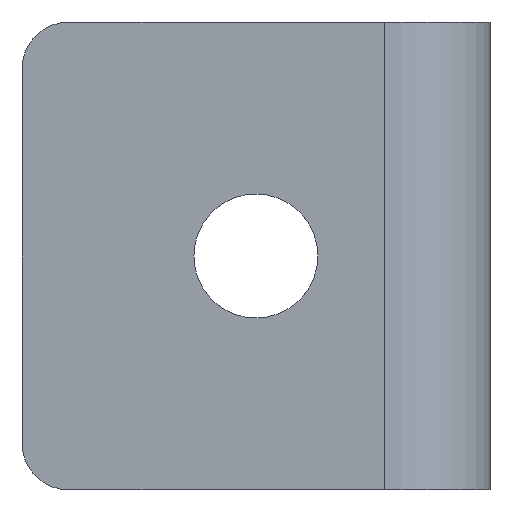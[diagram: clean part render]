
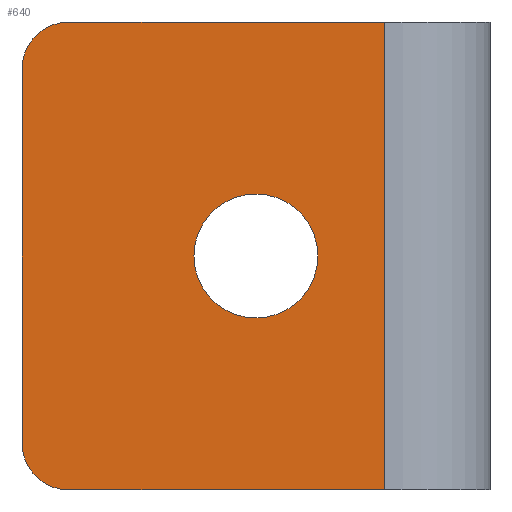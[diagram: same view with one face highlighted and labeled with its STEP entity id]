
A CAD part, left-side view. The second image highlights one B-rep face of the part: STEP entity #640.
In plain terms, the highlighted planar face has unit normal (-1, 0, 0).
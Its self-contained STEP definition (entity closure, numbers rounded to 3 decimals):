
#37 = ORIENTED_EDGE ( 'NONE', *, *, #208, .T. ) ;
#51 = ORIENTED_EDGE ( 'NONE', *, *, #454, .T. ) ;
#68 = CARTESIAN_POINT ( 'NONE',  ( -2.91, 1.5, -10. ) ) ;
#80 = DIRECTION ( 'NONE',  ( 0., 0., -1. ) ) ;
#90 = VECTOR ( 'NONE', #590, 1000. ) ;
#94 = CARTESIAN_POINT ( 'NONE',  ( -2.91, 7.01, 0. ) ) ;
#98 = DIRECTION ( 'NONE',  ( 0., 0., 1. ) ) ;
#106 = VECTOR ( 'NONE', #268, 1000. ) ;
#118 = CARTESIAN_POINT ( 'NONE',  ( -2.91, 1.5, 10. ) ) ;
#136 = CIRCLE ( 'NONE', #637, 2. ) ;
#137 = CARTESIAN_POINT ( 'NONE',  ( -2.91, 1.5, 10. ) ) ;
#147 = AXIS2_PLACEMENT_3D ( 'NONE', #310, #461, #456 ) ;
#148 = ORIENTED_EDGE ( 'NONE', *, *, #671, .T. ) ;
#154 = ORIENTED_EDGE ( 'NONE', *, *, #205, .T. ) ;
#155 = FACE_OUTER_BOUND ( 'NONE', #281, .T. ) ;
#156 = ORIENTED_EDGE ( 'NONE', *, *, #428, .T. ) ;
#159 = DIRECTION ( 'NONE',  ( 0., 0., -1. ) ) ;
#196 = DIRECTION ( 'NONE',  ( 1., 0., 0. ) ) ;
#205 = EDGE_CURVE ( 'NONE', #662, #280, #136, .T. ) ;
#208 = EDGE_CURVE ( 'NONE', #446, #401, #515, .T. ) ;
#215 = AXIS2_PLACEMENT_3D ( 'NONE', #670, #196, #98 ) ;
#241 = DIRECTION ( 'NONE',  ( 0., 0., 1. ) ) ;
#243 = CARTESIAN_POINT ( 'NONE',  ( -2.91, 15.01, -8. ) ) ;
#245 = PLANE ( 'NONE',  #147 ) ;
#260 = CARTESIAN_POINT ( 'NONE',  ( -2.91, 9.66, 0. ) ) ;
#261 = VECTOR ( 'NONE', #159, 1000. ) ;
#263 = CARTESIAN_POINT ( 'NONE',  ( -2.91, 17.01, -10. ) ) ;
#268 = DIRECTION ( 'NONE',  ( 0., -1., 0. ) ) ;
#280 = VERTEX_POINT ( 'NONE', #655 ) ;
#281 = EDGE_LOOP ( 'NONE', ( #374, #449, #669, #156, #154, #51 ) ) ;
#288 = CARTESIAN_POINT ( 'NONE',  ( -2.91, 15.01, 8. ) ) ;
#303 = DIRECTION ( 'NONE',  ( 0., 0., 1. ) ) ;
#305 = DIRECTION ( 'NONE',  ( 0., 0., 1. ) ) ;
#306 = VERTEX_POINT ( 'NONE', #68 ) ;
#310 = CARTESIAN_POINT ( 'NONE',  ( -2.91, 17.01, 10. ) ) ;
#341 = EDGE_CURVE ( 'NONE', #514, #306, #548, .T. ) ;
#350 = LINE ( 'NONE', #627, #261 ) ;
#374 = ORIENTED_EDGE ( 'NONE', *, *, #341, .F. ) ;
#401 = VERTEX_POINT ( 'NONE', #599 ) ;
#402 = DIRECTION ( 'NONE',  ( -1., 0., 0. ) ) ;
#406 = DIRECTION ( 'NONE',  ( -1., 0., 0. ) ) ;
#428 = EDGE_CURVE ( 'NONE', #644, #662, #350, .T. ) ;
#446 = VERTEX_POINT ( 'NONE', #260 ) ;
#449 = ORIENTED_EDGE ( 'NONE', *, *, #556, .F. ) ;
#454 = EDGE_CURVE ( 'NONE', #280, #306, #473, .T. ) ;
#456 = DIRECTION ( 'NONE',  ( 0., 0., 1. ) ) ;
#461 = DIRECTION ( 'NONE',  ( 1., 0., 0. ) ) ;
#473 = LINE ( 'NONE', #263, #106 ) ;
#508 = VERTEX_POINT ( 'NONE', #578 ) ;
#510 = CARTESIAN_POINT ( 'NONE',  ( -2.91, 17.01, -8. ) ) ;
#514 = VERTEX_POINT ( 'NONE', #118 ) ;
#515 = CIRCLE ( 'NONE', #215, 2.65 ) ;
#516 = CIRCLE ( 'NONE', #531, 2.65 ) ;
#525 = LINE ( 'NONE', #597, #90 ) ;
#531 = AXIS2_PLACEMENT_3D ( 'NONE', #94, #619, #241 ) ;
#548 = LINE ( 'NONE', #137, #579 ) ;
#556 = EDGE_CURVE ( 'NONE', #508, #514, #525, .T. ) ;
#558 = EDGE_LOOP ( 'NONE', ( #37, #148 ) ) ;
#561 = FACE_BOUND ( 'NONE', #558, .T. ) ;
#578 = CARTESIAN_POINT ( 'NONE',  ( -2.91, 15.01, 10. ) ) ;
#579 = VECTOR ( 'NONE', #80, 1000. ) ;
#589 = AXIS2_PLACEMENT_3D ( 'NONE', #288, #402, #305 ) ;
#590 = DIRECTION ( 'NONE',  ( 0., -1., 0. ) ) ;
#597 = CARTESIAN_POINT ( 'NONE',  ( -2.91, 17.01, 10. ) ) ;
#599 = CARTESIAN_POINT ( 'NONE',  ( -2.91, 4.36, 0. ) ) ;
#614 = EDGE_CURVE ( 'NONE', #508, #644, #677, .T. ) ;
#619 = DIRECTION ( 'NONE',  ( 1., 0., 0. ) ) ;
#627 = CARTESIAN_POINT ( 'NONE',  ( -2.91, 17.01, 10. ) ) ;
#637 = AXIS2_PLACEMENT_3D ( 'NONE', #243, #406, #303 ) ;
#640 = ADVANCED_FACE ( 'NONE', ( #155, #561 ), #245, .F. ) ;
#644 = VERTEX_POINT ( 'NONE', #673 ) ;
#655 = CARTESIAN_POINT ( 'NONE',  ( -2.91, 15.01, -10. ) ) ;
#662 = VERTEX_POINT ( 'NONE', #510 ) ;
#669 = ORIENTED_EDGE ( 'NONE', *, *, #614, .T. ) ;
#670 = CARTESIAN_POINT ( 'NONE',  ( -2.91, 7.01, 0. ) ) ;
#671 = EDGE_CURVE ( 'NONE', #401, #446, #516, .T. ) ;
#673 = CARTESIAN_POINT ( 'NONE',  ( -2.91, 17.01, 8. ) ) ;
#677 = CIRCLE ( 'NONE', #589, 2. ) ;
